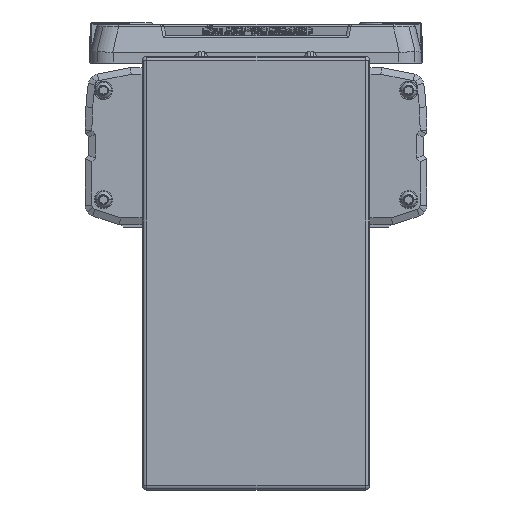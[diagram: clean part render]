
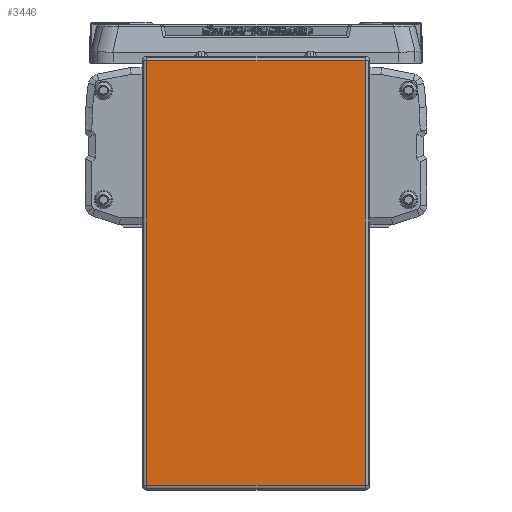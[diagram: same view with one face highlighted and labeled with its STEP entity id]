
A CAD part, left-side view. The second image highlights one B-rep face of the part: STEP entity #3446.
In plain terms, the highlighted planar face has unit normal (-1, 0, 0).
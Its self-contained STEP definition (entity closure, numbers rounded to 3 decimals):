
#3446=ADVANCED_FACE('',(#8572),#8573,.T.);
#8572=FACE_OUTER_BOUND('',#16150,.T.);
#8573=PLANE('',#16151);
#16150=EDGE_LOOP('',(#26719,#26720,#26721,#26722));
#16151=AXIS2_PLACEMENT_3D('',#26723,#26724,#26725);
#26719=ORIENTED_EDGE('',*,*,#45512,.F.);
#26720=ORIENTED_EDGE('',*,*,#45513,.F.);
#26721=ORIENTED_EDGE('',*,*,#45514,.F.);
#26722=ORIENTED_EDGE('',*,*,#45515,.F.);
#26723=CARTESIAN_POINT('',(-45.,0.,-64.2));
#26724=DIRECTION('',(-1.0,0.,0.));
#26725=DIRECTION('',(0.,1.0,0.));
#45512=EDGE_CURVE('',#55134,#55135,#55136,.T.);
#45513=EDGE_CURVE('',#55137,#55134,#55138,.T.);
#45514=EDGE_CURVE('',#55139,#55137,#55140,.T.);
#45515=EDGE_CURVE('',#55135,#55139,#55141,.T.);
#55134=VERTEX_POINT('',#68349);
#55135=VERTEX_POINT('',#68350);
#55136=LINE('',#68351,#68352);
#55137=VERTEX_POINT('',#68353);
#55138=LINE('',#68354,#68355);
#55139=VERTEX_POINT('',#68356);
#55140=LINE('',#68357,#68358);
#55141=LINE('',#68359,#68360);
#68349=CARTESIAN_POINT('',(-45.,48.,29.));
#68350=CARTESIAN_POINT('',(-45.,-48.,29.));
#68351=CARTESIAN_POINT('',(-45.,0.,29.));
#68352=VECTOR('',#82924,10.0);
#68353=CARTESIAN_POINT('',(-45.,48.,-157.4));
#68354=CARTESIAN_POINT('',(-45.,48.,-64.2));
#68355=VECTOR('',#82925,10.0);
#68356=CARTESIAN_POINT('',(-45.,-48.,-157.4));
#68357=CARTESIAN_POINT('',(-45.,0.,-157.4));
#68358=VECTOR('',#82926,10.0);
#68359=CARTESIAN_POINT('',(-45.,-48.,-64.2));
#68360=VECTOR('',#82927,10.0);
#82924=DIRECTION('',(0.0,-1.0,0.));
#82925=DIRECTION('',(0.,0.,1.0));
#82926=DIRECTION('',(0.0,1.0,0.));
#82927=DIRECTION('',(0.,0.,-1.0));
